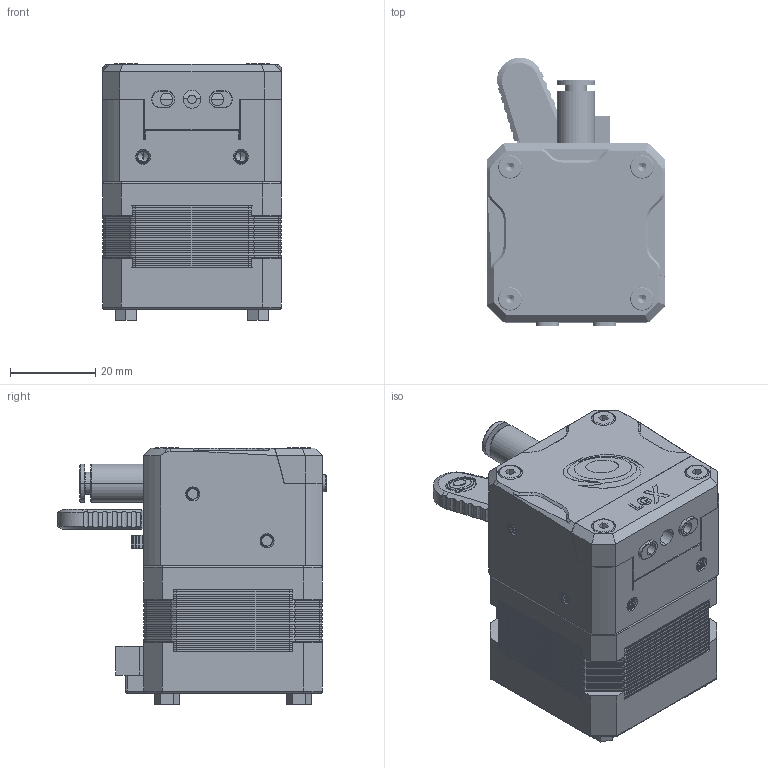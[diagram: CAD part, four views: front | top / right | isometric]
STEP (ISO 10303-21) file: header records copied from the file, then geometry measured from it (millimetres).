
FILE_DESCRIPTION (( 'STEP AP203' ), '1' );
FILE_NAME ('EXT01LGX41036 - LGX Pro Metal 175 - Dummy.STEP', '2024-04-12T12:28:51', ( '' ), ( '' ), 'SwSTEP 2.0', 'SolidWorks 2023', '' );
FILE_SCHEMA (( 'CONFIG_CONTROL_DESIGN' ));
Products named in the file (1): EXT01LGX41036 - LGX Pro Metal 175 - Dummy
Bounding box: 42 x 63.04 x 60.25 mm (x, y, z)
Volume: 98525.6 mm3; surface area: 32010.1 mm2
Topology: 20 solids, 20 shells, 1924 faces, 5156 edges, 3350 vertices
Faces by surface type: cylinder 853, plane 740, bspline 189, cone 116, torus 24, sphere 2
Entity records: 101458 total; most frequent: CARTESIAN_POINT 56203, ORIENTED_EDGE 10252, DIRECTION 8440, EDGE_CURVE 5126, VERTEX_POINT 3350, AXIS2_PLACEMENT_3D 2850, LINE 2740, VECTOR 2740
